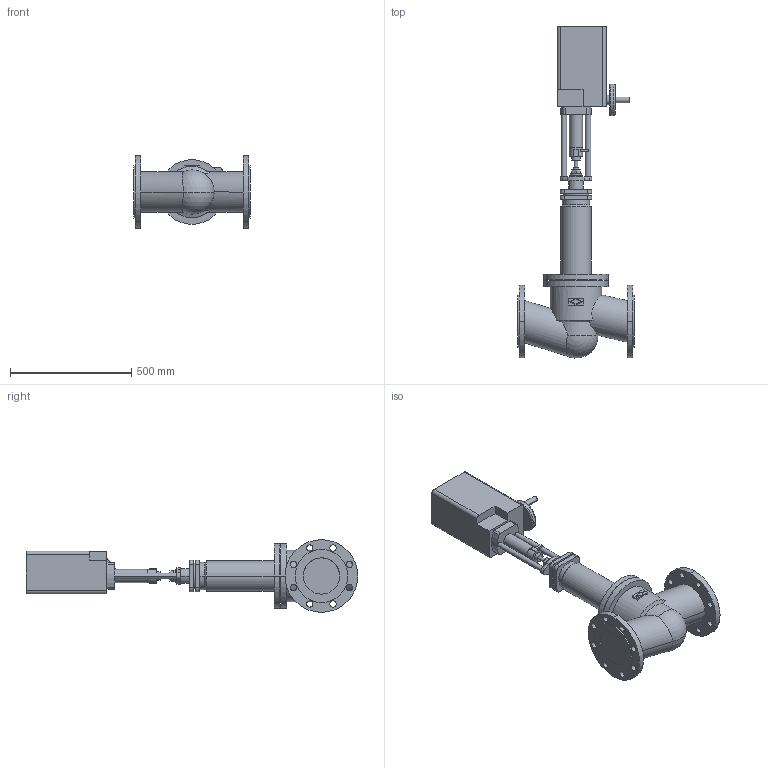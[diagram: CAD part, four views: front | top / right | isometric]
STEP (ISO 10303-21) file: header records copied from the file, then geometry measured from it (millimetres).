
FILE_DESCRIPTION(('CoCreate Modeling STEP Export'),'2;1');
FILE_NAME('c000004809.stp','2011-10-11T11:23:40',(''),(''),'CoCreate Modeling STEP processor for AP214 (Solid Model)','CoCreate Modeling 17.0 01-Apr-2010 (C) Parametric Technology GmbH','');
FILE_SCHEMA(('AUTOMOTIVE_DESIGN { 1 0 10303 214 1 1 1 1 }'));
Length unit declared in the file: millimetre
Products named in the file (2): 1; 2
Bounding box: 480 x 1369.47 x 300 mm (x, y, z)
Volume: 37777267.8 mm3; surface area: 1386341.7 mm2
Topology: 2 solids, 2 shells, 217 faces, 532 edges, 350 vertices
Faces by surface type: cylinder 112, plane 95, cone 4, torus 4, sphere 2
Entity records: 7939 total; most frequent: CARTESIAN_POINT 1284, ORIENTED_EDGE 1060, DIRECTION 920, EDGE_CURVE 530, VERTEX_POINT 350, AXIS2_PLACEMENT_3D 326, EDGE_LOOP 282, VECTOR 268
